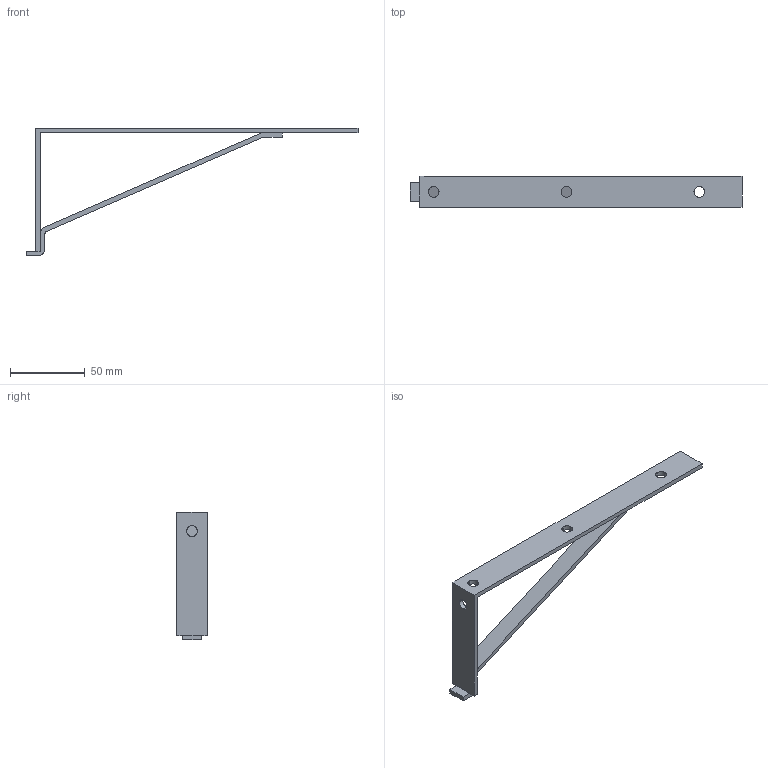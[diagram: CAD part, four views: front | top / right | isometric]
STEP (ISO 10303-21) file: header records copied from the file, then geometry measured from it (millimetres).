
FILE_DESCRIPTION(('TurboCAD Mac Pro'),'Build 980');
FILE_NAME('P6128.stp',' ',(''),(''),'ACIS Interop','IMSI','TurboCAD Mac Pro BY IMSI, INCORPORATED');
FILE_SCHEMA(('automotive_design'));
Length unit declared in the file: inch
Products named in the file (1): 1
Bounding box: 222.25 x 20.64 x 85.47 mm (x, y, z)
Volume: 26804.9 mm3; surface area: 19797.8 mm2
Topology: 1 solids, 1 shells, 41 faces, 120 edges, 80 vertices
Faces by surface type: bspline 21, plane 20
Entity records: 2370 total; most frequent: CARTESIAN_POINT 523, ORIENTED_EDGE 240, STYLED_ITEM 146, PRESENTATION_STYLE_ASSIGNMENT 146, COLOUR_RGB 146, DIRECTION 128, EDGE_CURVE 120, CURVE_STYLE 104
